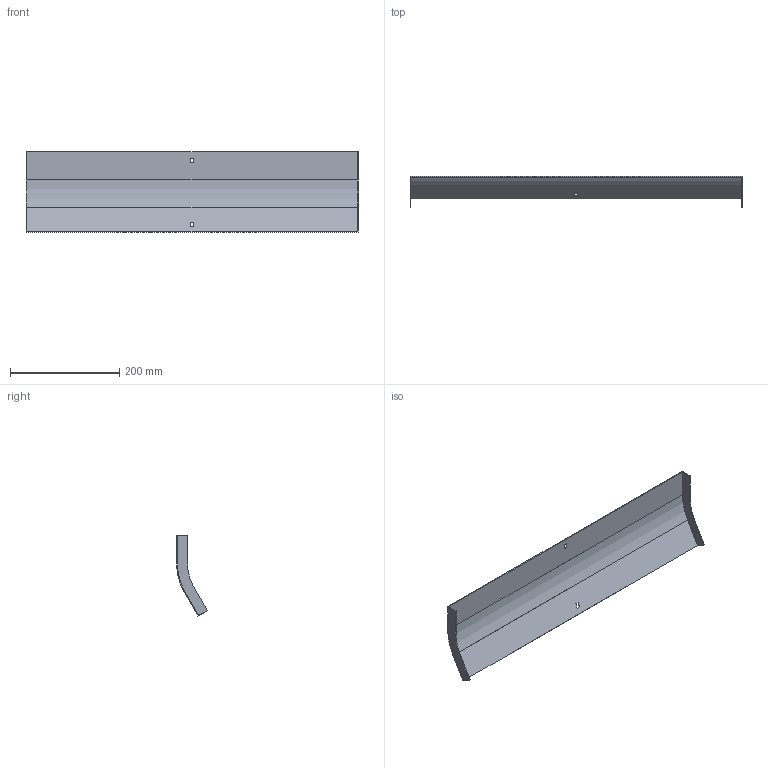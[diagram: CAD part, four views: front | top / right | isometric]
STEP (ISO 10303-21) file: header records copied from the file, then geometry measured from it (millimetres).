
FILE_DESCRIPTION (( 'STEP AP214' ), '1' );
FILE_NAME ('35G1C600.step', '2025-02-21T12:42:09', ( '' ), ( '' ), 'SwSTEP 2.0', 'SolidWorks 2023', '' );
FILE_SCHEMA (( 'AUTOMOTIVE_DESIGN' ));
Length unit declared in the file: millimetre
Products named in the file (1): 35G1C600
Bounding box: 607 x 56.52 x 146.29 mm (x, y, z)
Volume: 149411.3 mm3; surface area: 201676.5 mm2
Topology: 1 solids, 1 shells, 26 faces, 72 edges, 48 vertices
Faces by surface type: plane 22, cylinder 4
Entity records: 855 total; most frequent: CARTESIAN_POINT 147, ORIENTED_EDGE 144, DIRECTION 134, EDGE_CURVE 72, VECTOR 64, LINE 64, VERTEX_POINT 48, AXIS2_PLACEMENT_3D 35
